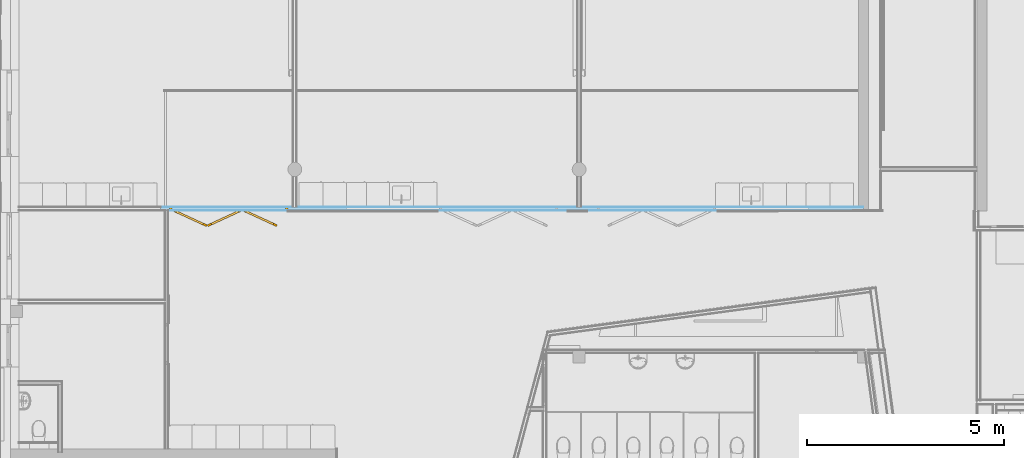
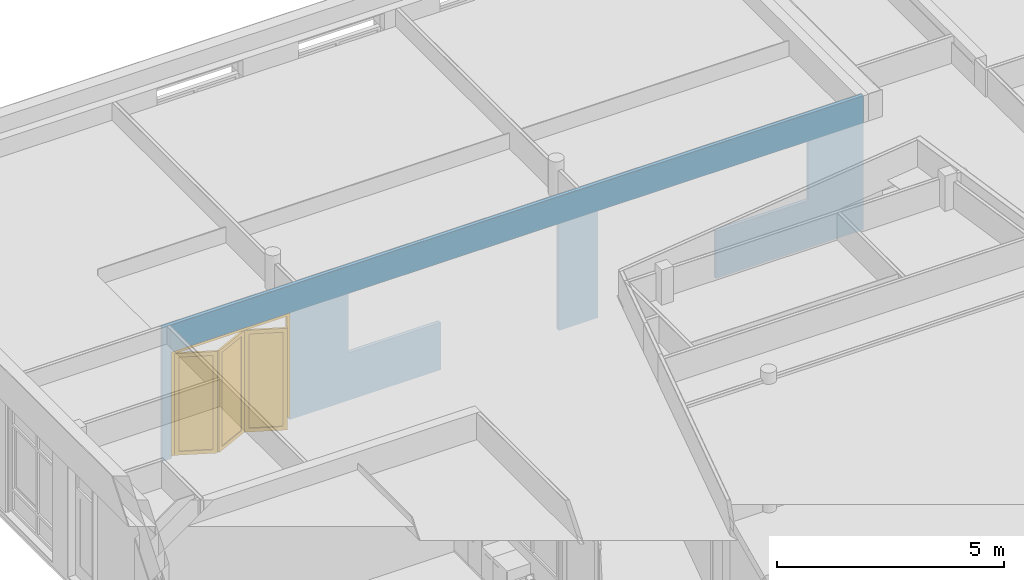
# One storey, part 39 of 167: 1 door, 5 openings, 1 element without a shape of its own, plus 3 elements that do not belong to this part.
"""IFC2X3 building model written with IfcOpenShell, lengths in millimetres."""

from ifc_helpers import new_model, entity, si_unit, converted_unit, derived_unit, money_unit, direction, frame, origin_with_axes, place, context, subcontext, project, spatial, open_shell, faceted_brep, surface_model, material, type_object, element, fill, aggregate, save


model = new_model("IFC2X3")

# Units and contexts
model_context = context("Model", 3, precision=0.01, world=origin_with_axes(), true_north=direction((0.0, 1.0)))
plan_context = context("Plan", 3, precision=0.01, world=origin_with_axes(), true_north=direction((0.0, 1.0)))
body_context = subcontext(model_context, "Body", "Model", "MODEL_VIEW")
ifc_project = project(units=[si_unit("LENGTHUNIT", "METRE", prefix="MILLI"), si_unit("AREAUNIT", "SQUARE_METRE"), si_unit("VOLUMEUNIT", "CUBIC_METRE"), converted_unit("PLANEANGLEUNIT", "DEGREE", entity("IfcPlaneAngleMeasure", 0.0174532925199), si_unit("PLANEANGLEUNIT", "RADIAN"), dimensions=[0, 0, 0, 0, 0, 0, 0]), si_unit("SOLIDANGLEUNIT", "STERADIAN"), money_unit("EUR"), converted_unit("TIMEUNIT", "Year", entity("IfcTimeMeasure", 31556926.0), si_unit("TIMEUNIT", "SECOND"), dimensions=[0, 0, 1, 0, 0, 0, 0]), si_unit("MASSUNIT", "GRAM", prefix="KILO"), si_unit("THERMODYNAMICTEMPERATUREUNIT", "DEGREE_CELSIUS"), si_unit("LUMINOUSINTENSITYUNIT", "LUMEN"), si_unit("ENERGYUNIT", "JOULE", prefix="MEGA"), derived_unit("THERMALCONDUCTANCEUNIT", [(si_unit("POWERUNIT", "WATT"), 1), (si_unit("LENGTHUNIT", "METRE"), -1), (si_unit("THERMODYNAMICTEMPERATUREUNIT", "KELVIN"), -1)]), derived_unit("SPECIFICHEATCAPACITYUNIT", [(si_unit("ENERGYUNIT", "JOULE"), 1), (si_unit("MASSUNIT", "GRAM", prefix="KILO"), -1), (si_unit("THERMODYNAMICTEMPERATUREUNIT", "KELVIN"), -1)]), derived_unit("MASSDENSITYUNIT", [(si_unit("MASSUNIT", "GRAM", prefix="KILO"), 1), (si_unit("VOLUMEUNIT", "CUBIC_METRE"), -1)])], contexts=[model_context, plan_context])

# Site, building, storey
site_placement = place(None, origin_with_axes())
site = spatial("IfcSite", under=ifc_project, at=site_placement, Name="Site", CompositionType="ELEMENT")
building_placement = place(site_placement, origin_with_axes())
building = spatial("IfcBuilding", under=site, at=building_placement, Name="Naam gebouw", CompositionType="ELEMENT")
storey_placement = place(building_placement, origin_with_axes())
storey = spatial("IfcBuildingStorey", under=building, at=storey_placement, Name="Begane grond", CompositionType="ELEMENT", Elevation=0.0)

# Door
door_style = type_object("IfcDoorStyle", Name="DV1 24", ConstructionType="NOTDEFINED", OperationType="FOLDING_TO_LEFT", ParameterTakesPrecedence=False, Sizeable=False)
wall_placement = place(storey_placement, frame((3950.0, 42200.0, -100.0), z_axis=(0.0, 0.0, 1.0), x_axis=(1.0, 0.0, 0.0)))
opening_5_placement = place(wall_placement, frame((1575.0, 0.0, 100.0), z_axis=(0.0, 0.0, 1.0), x_axis=(1.0, 0.0, 0.0)))
door_placement = place(opening_5_placement, frame((1500.0, 0.0, 0.0), z_axis=(0.0, 0.0, 1.0), x_axis=(-1.0, 0.0, 0.0)))
door = element("IfcDoor", 1, at=door_placement, inside=storey, type_object=door_style, Name="32_Deur_Si-01", ObjectType="DOOR", OverallHeight=2800.0, OverallWidth=3000.0, context=body_context, shape_type="SurfaceModel", body=[
    faceted_brep([(3000.0, 50.0, 0.0), (3000.0, -30.0, 0.0), (2933.0, -30.0, 0.0), (2933.0, 50.0, 0.0), (3000.0, 50.0, 2733.0), (3000.0, -30.0, 2733.0), (2933.0, -30.0, 2733.0), (2933.0, 50.0, 2733.0)], [[[0, 1, 2, 3]], [[4, 5, 1, 0]], [[1, 5, 6, 2]], [[3, 2, 6, 7]], [[0, 3, 7, 4]], [[7, 6, 5, 4]]]),
    faceted_brep([(0.0, 50.0, 0.0), (0.0, -30.0, 0.0), (0.0, -30.0, 2733.0), (0.0, 50.0, 2733.0), (67.0, 50.0, 0.0), (67.0, -30.0, 0.0), (67.0, -30.0, 2733.0), (67.0, 50.0, 2733.0)], [[[0, 1, 2, 3]], [[4, 5, 1, 0]], [[1, 5, 6, 2]], [[3, 2, 6, 7]], [[0, 3, 7, 4]], [[7, 6, 5, 4]]]),
    faceted_brep([(3000.0, 50.0, 2800.0), (3000.0, -30.0, 2800.0), (3000.0, -30.0, 2733.0), (3000.0, 50.0, 2733.0), (0.0, 50.0, 2800.0), (0.0, -30.0, 2800.0), (0.0, -30.0, 2733.0), (67.0, -30.0, 2733.0), (2933.0, -30.0, 2733.0), (2933.0, 50.0, 2733.0), (67.0, 50.0, 2733.0), (0.0, 50.0, 2733.0)], [[[0, 1, 2, 3]], [[4, 5, 1, 0]], [[1, 5, 6, 7, 8, 2]], [[3, 2, 8, 9]], [[0, 3, 9, 10, 11, 4]], [[11, 6, 5, 4]], [[10, 7, 6, 11]], [[9, 8, 7, 10]]]),
    faceted_brep([(2933.0, 50.0, 100.0), (2912.08677852, 4.58373455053, 100.0), (2821.25424762, 46.4101775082, 100.0), (2842.1674691, 91.8264429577, 100.0), (2933.0, 50.0, 2633.0), (2912.08677852, 4.58373455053, 2633.0), (2821.25424762, 46.4101775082, 2633.0), (2842.1674691, 91.8264429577, 2633.0)], [[[0, 1, 2, 3]], [[4, 5, 1, 0]], [[1, 5, 6, 2]], [[3, 2, 6, 7]], [[0, 3, 7, 4]], [[7, 6, 5, 4]]]),
    faceted_brep([(2065.24655481, 449.581951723, 100.0), (2044.33333333, 404.165686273, 100.0), (2044.33333333, 404.165686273, 2633.0), (2065.24655481, 449.581951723, 2633.0), (2156.07908571, 407.755508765, 100.0), (2135.16586423, 362.339243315, 100.0), (2135.16586423, 362.339243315, 2633.0), (2156.07908571, 407.755508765, 2633.0)], [[[0, 1, 2, 3]], [[4, 5, 1, 0]], [[1, 5, 6, 2]], [[3, 2, 6, 7]], [[0, 3, 7, 4]], [[7, 6, 5, 4]]]),
    faceted_brep([(2933.0, 50.0, 0.0), (2912.08677852, 4.58373455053, 0.0), (2044.33333333, 404.165686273, 0.0), (2065.24655481, 449.581951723, 0.0), (2933.0, 50.0, 100.0), (2912.08677852, 4.58373455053, 100.0), (2821.25424762, 46.4101775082, 100.0), (2135.16586423, 362.339243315, 100.0), (2044.33333333, 404.165686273, 100.0), (2065.24655481, 449.581951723, 100.0), (2156.07908571, 407.755508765, 100.0), (2842.1674691, 91.8264429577, 100.0)], [[[0, 1, 2, 3]], [[4, 5, 1, 0]], [[1, 5, 6, 7, 8, 2]], [[3, 2, 8, 9]], [[0, 3, 9, 10, 11, 4]], [[11, 6, 5, 4]], [[10, 7, 6, 11]], [[9, 8, 7, 10]]]),
    faceted_brep([(2933.0, 50.0, 2733.0), (2912.08677852, 4.58373455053, 2733.0), (2912.08677852, 4.58373455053, 2633.0), (2933.0, 50.0, 2633.0), (2065.24655481, 449.581951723, 2733.0), (2044.33333333, 404.165686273, 2733.0), (2044.33333333, 404.165686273, 2633.0), (2135.16586423, 362.339243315, 2633.0), (2821.25424762, 46.4101775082, 2633.0), (2842.1674691, 91.8264429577, 2633.0), (2156.07908571, 407.755508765, 2633.0), (2065.24655481, 449.581951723, 2633.0)], [[[0, 1, 2, 3]], [[4, 5, 1, 0]], [[1, 5, 6, 7, 8, 2]], [[3, 2, 8, 9]], [[0, 3, 9, 10, 11, 4]], [[11, 6, 5, 4]], [[10, 7, 6, 11]], [[9, 8, 7, 10]]]),
    surface_model("IfcShellBasedSurfaceModel", [(2148.13206155, 390.497327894, 100.0), (2148.13206155, 390.497327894, 2633.0), (2834.22044494, 74.5682620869, 2633.0), (2834.22044494, 74.5682620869, 100.0)], [open_shell([[[0, 1, 2, 3]]])]),
    surface_model("IfcShellBasedSurfaceModel", [(2143.11288839, 379.597424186, 100.0), (2829.20127178, 63.668358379, 100.0), (2829.20127178, 63.668358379, 2633.0), (2143.11288839, 379.597424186, 2633.0)], [open_shell([[[0, 1, 2, 3]]])]),
    faceted_brep([(2023.42011185, 449.581951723, 100.0), (2044.33333333, 404.165686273, 100.0), (1953.50080243, 362.339243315, 100.0), (1932.58758096, 407.755508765, 100.0), (2023.42011185, 449.581951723, 2633.0), (2044.33333333, 404.165686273, 2633.0), (1953.50080243, 362.339243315, 2633.0), (1932.58758096, 407.755508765, 2633.0)], [[[0, 1, 2, 3]], [[4, 5, 1, 0]], [[1, 5, 6, 2]], [[3, 2, 6, 7]], [[0, 3, 7, 4]], [[7, 6, 5, 4]]]),
    faceted_brep([(1155.66666667, 50.0, 100.0), (1176.57988815, 4.58373455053, 100.0), (1176.57988815, 4.58373455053, 2633.0), (1155.66666667, 50.0, 2633.0), (1246.49919757, 91.8264429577, 100.0), (1267.41241904, 46.4101775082, 100.0), (1267.41241904, 46.4101775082, 2633.0), (1246.49919757, 91.8264429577, 2633.0)], [[[0, 1, 2, 3]], [[4, 5, 1, 0]], [[1, 5, 6, 2]], [[3, 2, 6, 7]], [[0, 3, 7, 4]], [[7, 6, 5, 4]]]),
    faceted_brep([(2023.42011185, 449.581951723, 0.0), (2044.33333333, 404.165686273, 0.0), (1176.57988815, 4.58373455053, 0.0), (1155.66666667, 50.0, 0.0), (2023.42011185, 449.581951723, 100.0), (2044.33333333, 404.165686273, 100.0), (1953.50080243, 362.339243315, 100.0), (1267.41241904, 46.4101775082, 100.0), (1176.57988815, 4.58373455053, 100.0), (1155.66666667, 50.0, 100.0), (1246.49919757, 91.8264429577, 100.0), (1932.58758096, 407.755508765, 100.0)], [[[0, 1, 2, 3]], [[4, 5, 1, 0]], [[1, 5, 6, 7, 8, 2]], [[3, 2, 8, 9]], [[0, 3, 9, 10, 11, 4]], [[11, 6, 5, 4]], [[10, 7, 6, 11]], [[9, 8, 7, 10]]]),
    faceted_brep([(2023.42011185, 449.581951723, 2733.0), (2044.33333333, 404.165686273, 2733.0), (2044.33333333, 404.165686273, 2633.0), (2023.42011185, 449.581951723, 2633.0), (1155.66666667, 50.0, 2733.0), (1176.57988815, 4.58373455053, 2733.0), (1176.57988815, 4.58373455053, 2633.0), (1267.41241904, 46.4101775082, 2633.0), (1953.50080243, 362.339243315, 2633.0), (1932.58758096, 407.755508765, 2633.0), (1246.49919757, 91.8264429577, 2633.0), (1155.66666667, 50.0, 2633.0)], [[[0, 1, 2, 3]], [[4, 5, 1, 0]], [[1, 5, 6, 7, 8, 2]], [[3, 2, 8, 9]], [[0, 3, 9, 10, 11, 4]], [[11, 6, 5, 4]], [[10, 7, 6, 11]], [[9, 8, 7, 10]]]),
    surface_model("IfcShellBasedSurfaceModel", [(1254.44622173, 74.5682620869, 100.0), (1254.44622173, 74.5682620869, 2633.0), (1940.53460512, 390.497327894, 2633.0), (1940.53460512, 390.497327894, 100.0)], [open_shell([[[0, 1, 2, 3]]])]),
    surface_model("IfcShellBasedSurfaceModel", [(1259.46539488, 63.668358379, 100.0), (1945.55377827, 379.597424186, 100.0), (1945.55377827, 379.597424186, 2633.0), (1259.46539488, 63.668358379, 2633.0)], [open_shell([[[0, 1, 2, 3]]])]),
    faceted_brep([(1155.66666667, 50.0, 100.0), (1134.75344519, 4.58373455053, 100.0), (1043.92091429, 46.4101775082, 100.0), (1064.83413577, 91.8264429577, 100.0), (1155.66666667, 50.0, 2633.0), (1134.75344519, 4.58373455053, 2633.0), (1043.92091429, 46.4101775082, 2633.0), (1064.83413577, 91.8264429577, 2633.0)], [[[0, 1, 2, 3]], [[4, 5, 1, 0]], [[1, 5, 6, 2]], [[3, 2, 6, 7]], [[0, 3, 7, 4]], [[7, 6, 5, 4]]]),
    faceted_brep([(287.913221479, 449.581951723, 100.0), (267.0, 404.165686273, 100.0), (267.0, 404.165686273, 2633.0), (287.913221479, 449.581951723, 2633.0), (378.745752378, 407.755508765, 100.0), (357.832530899, 362.339243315, 100.0), (357.832530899, 362.339243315, 2633.0), (378.745752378, 407.755508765, 2633.0)], [[[0, 1, 2, 3]], [[4, 5, 1, 0]], [[1, 5, 6, 2]], [[3, 2, 6, 7]], [[0, 3, 7, 4]], [[7, 6, 5, 4]]]),
    faceted_brep([(1155.66666667, 50.0, 0.0), (1134.75344519, 4.58373455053, 0.0), (267.0, 404.165686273, 0.0), (287.913221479, 449.581951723, 0.0), (1155.66666667, 50.0, 100.0), (1134.75344519, 4.58373455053, 100.0), (1043.92091429, 46.4101775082, 100.0), (357.832530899, 362.339243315, 100.0), (267.0, 404.165686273, 100.0), (287.913221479, 449.581951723, 100.0), (378.745752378, 407.755508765, 100.0), (1064.83413577, 91.8264429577, 100.0)], [[[0, 1, 2, 3]], [[4, 5, 1, 0]], [[1, 5, 6, 7, 8, 2]], [[3, 2, 8, 9]], [[0, 3, 9, 10, 11, 4]], [[11, 6, 5, 4]], [[10, 7, 6, 11]], [[9, 8, 7, 10]]]),
    faceted_brep([(1155.66666667, 50.0, 2733.0), (1134.75344519, 4.58373455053, 2733.0), (1134.75344519, 4.58373455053, 2633.0), (1155.66666667, 50.0, 2633.0), (287.913221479, 449.581951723, 2733.0), (267.0, 404.165686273, 2733.0), (267.0, 404.165686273, 2633.0), (357.832530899, 362.339243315, 2633.0), (1043.92091429, 46.4101775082, 2633.0), (1064.83413577, 91.8264429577, 2633.0), (378.745752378, 407.755508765, 2633.0), (287.913221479, 449.581951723, 2633.0)], [[[0, 1, 2, 3]], [[4, 5, 1, 0]], [[1, 5, 6, 7, 8, 2]], [[3, 2, 8, 9]], [[0, 3, 9, 10, 11, 4]], [[11, 6, 5, 4]], [[10, 7, 6, 11]], [[9, 8, 7, 10]]]),
    surface_model("IfcShellBasedSurfaceModel", [(370.798728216, 390.497327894, 100.0), (370.798728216, 390.497327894, 2633.0), (1056.88711161, 74.5682620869, 2633.0), (1056.88711161, 74.5682620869, 100.0)], [open_shell([[[0, 1, 2, 3]]])]),
    surface_model("IfcShellBasedSurfaceModel", [(365.779555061, 379.597424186, 100.0), (1051.86793845, 63.668358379, 100.0), (1051.86793845, 63.668358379, 2633.0), (365.779555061, 379.597424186, 2633.0)], [open_shell([[[0, 1, 2, 3]]])]),
])

# Wall, openings
wall_type = type_object("IfcWallType", Name="_TenW_22_Metalstud 100 enkel gipsvezelplaat 100", PredefinedType="NOTDEFINED")
wall = element("IfcWall", 2, at=wall_placement, inside=storey, type_object=wall_type, Name="22_Wand_Wand-x")
opening_1_placement = place(wall_placement, frame((5740.0, 0.0, 1300.0), z_axis=(0.0, 0.0, 1.0), x_axis=(1.0, 0.0, 0.0)))
element("IfcOpeningElement", 3, at=opening_1_placement, cuts=wall, Name="31_Raam_Hi-53", context=body_context, shape_type="Brep", body=[
    faceted_brep([(-1175.0, 100.0, 1600.0), (-1175.0, 100.0, 0.0), (-1175.0, -200.0, 0.0), (-1175.0, -200.0, 1600.0), (1175.0, 100.0, 1600.0), (1175.0, 100.0, 0.0), (1175.0, -200.0, 0.0), (1175.0, -200.0, 1600.0)], [[[0, 1, 2, 3]], [[0, 4, 5, 1]], [[1, 5, 6, 2]], [[3, 2, 6, 7]], [[4, 0, 3, 7]], [[5, 4, 7, 6]]]),
])
opening_2_placement = place(wall_placement, frame((15080.2814686, 0.0, 1300.0), z_axis=(0.0, 0.0, 1.0), x_axis=(1.0, 0.0, 0.0)))
element("IfcOpeningElement", 4, at=opening_2_placement, cuts=wall, Name="31_Raam_Hi-53", context=body_context, shape_type="Brep", body=[
    faceted_brep([(1175.0, -200.0, 1600.0), (1175.0, -200.0, 0.0), (1175.0, 100.0, 0.0), (1175.0, 100.0, 1600.0), (-1175.0, -200.0, 1600.0), (-1175.0, -200.0, 0.0), (-1175.0, 100.0, 0.0), (-1175.0, 100.0, 1600.0)], [[[0, 1, 2, 3]], [[0, 4, 5, 1]], [[1, 5, 6, 2]], [[3, 2, 6, 7]], [[4, 0, 3, 7]], [[5, 4, 7, 6]]]),
])
opening_3_placement = place(wall_placement, frame((8415.0, 0.0, 100.0), z_axis=(0.0, 0.0, 1.0), x_axis=(1.0, 0.0, 0.0)))
element("IfcOpeningElement", 5, at=opening_3_placement, cuts=wall, Name="32_Deur_Si-02", context=body_context, shape_type="Brep", body=[
    faceted_brep([(1500.0, -200.0, 2800.0), (1500.0, -200.0, 0.0), (1500.0, 100.0, 0.0), (1500.0, 100.0, 2800.0), (-1500.0, -200.0, 2800.0), (-1500.0, -200.0, 0.0), (-1500.0, 100.0, 0.0), (-1500.0, 100.0, 2800.0)], [[[0, 1, 2, 3]], [[0, 4, 5, 1]], [[1, 5, 6, 2]], [[3, 2, 6, 7]], [[4, 0, 3, 7]], [[5, 4, 7, 6]]]),
])
opening_4_placement = place(wall_placement, frame((12405.2814686, 0.0, 100.0), z_axis=(0.0, 0.0, 1.0), x_axis=(1.0, 0.0, 0.0)))
element("IfcOpeningElement", 6, at=opening_4_placement, cuts=wall, Name="32_Deur_Si-02s", context=body_context, shape_type="Brep", body=[
    faceted_brep([(-1500.0, 100.0, 2800.0), (-1500.0, 100.0, 0.0), (-1500.0, -200.0, 0.0), (-1500.0, -200.0, 2800.0), (1500.0, 100.0, 2800.0), (1500.0, 100.0, 0.0), (1500.0, -200.0, 0.0), (1500.0, -200.0, 2800.0)], [[[0, 1, 2, 3]], [[0, 4, 5, 1]], [[1, 5, 6, 2]], [[3, 2, 6, 7]], [[4, 0, 3, 7]], [[5, 4, 7, 6]]]),
])
opening_5 = element("IfcOpeningElement", 7, at=opening_5_placement, cuts=wall, Name="32_Deur_Si-01", context=body_context, shape_type="Brep", body=[
    faceted_brep([(1500.0, -200.0, 2800.0), (1500.0, -200.0, 0.0), (1500.0, 100.0, 0.0), (1500.0, 100.0, 2800.0), (-1500.0, -200.0, 2800.0), (-1500.0, -200.0, 0.0), (-1500.0, 100.0, 0.0), (-1500.0, 100.0, 2800.0)], [[[0, 1, 2, 3]], [[0, 4, 5, 1]], [[1, 5, 6, 2]], [[3, 2, 6, 7]], [[4, 0, 3, 7]], [[5, 4, 7, 6]]]),
])

fill(opening_5, door)

# Building element part
ifc_material_1 = material(Name="Gipsplaat watervast")
building_element_part_1_placement = place(wall_placement, origin_with_axes())
building_element_part_1 = element("IfcBuildingElementPart", 8, at=building_element_part_1_placement, material=ifc_material_1, Name="Gipsplaat watervast", context=body_context, shape_type="Brep", body=[
    faceted_brep([(75.0, 50.0, 2900.0), (75.0, 50.0, 100.0), (75.0, 50.0, 30.0), (-150.0, 50.0, 30.0), (-150.0, 50.0, 3630.0), (3212.5, 50.0, 3630.0), (3212.5, 50.0, 30.0), (3075.0, 50.0, 30.0), (3075.0, 50.0, 100.0), (3075.0, 50.0, 2900.0), (75.0, 37.5, 2900.0), (75.0, 37.5, 100.0), (75.0, 37.5, 30.0), (-150.0, 37.5, 30.0), (-150.0, 37.5, 3630.0), (3212.5, 37.5, 3630.0), (3212.5, 37.5, 30.0), (3075.0, 37.5, 30.0), (3075.0, 37.5, 100.0), (3075.0, 37.5, 2900.0)], [[[0, 1, 2, 3, 4, 5, 6, 7, 8, 9]], [[1, 0, 10, 11]], [[1, 11, 12, 2]], [[12, 13, 3, 2]], [[13, 14, 4, 3]], [[4, 14, 15, 5]], [[6, 5, 15, 16]], [[7, 6, 16, 17]], [[18, 8, 7, 17]], [[9, 8, 18, 19]], [[0, 9, 19, 10]], [[19, 18, 17, 16, 15, 14, 13, 12, 11, 10]]]),
    faceted_brep([(10905.2814686, 50.0, 2900.0), (10905.2814686, 50.0, 100.0), (10905.2814686, 50.0, 30.0), (10487.5, 50.0, 30.0), (10487.5, 50.0, 3630.0), (17650.0, 50.0, 3630.0), (17650.0, 50.0, 30.0), (13905.2814686, 50.0, 30.0), (13905.2814686, 50.0, 100.0), (13905.2814686, 50.0, 1300.0), (16255.2814686, 50.0, 1300.0), (16255.2814686, 50.0, 2900.0), (13905.2814686, 50.0, 2900.0), (10905.2814686, 37.5, 2900.0), (10905.2814686, 37.5, 100.0), (10905.2814686, 37.5, 30.0), (10487.5, 37.5, 30.0), (10487.5, 37.5, 3630.0), (17650.0, 37.5, 3630.0), (17650.0, 37.5, 30.0), (13905.2814686, 37.5, 30.0), (13905.2814686, 37.5, 100.0), (13905.2814686, 37.5, 1300.0), (16255.2814686, 37.5, 1300.0), (16255.2814686, 37.5, 2900.0), (13905.2814686, 37.5, 2900.0)], [[[0, 1, 2, 3, 4, 5, 6, 7, 8, 9, 10, 11, 12]], [[1, 0, 13, 14]], [[1, 14, 15, 2]], [[16, 3, 2, 15]], [[17, 4, 3, 16]], [[18, 5, 4, 17]], [[5, 18, 19, 6]], [[6, 19, 20, 7]], [[21, 8, 7, 20]], [[22, 9, 8, 21]], [[9, 22, 23, 10]], [[10, 23, 24, 11]], [[25, 13, 0, 12, 11, 24]], [[13, 25, 24, 23, 22, 21, 20, 19, 18, 17, 16, 15, 14]]]),
    faceted_brep([(6915.0, 37.5, 1300.0), (6915.0, 50.0, 1300.0), (4565.0, 50.0, 1300.0), (4565.0, 37.5, 1300.0), (6915.0, 50.0, 100.0), (6915.0, 37.5, 100.0), (9915.0, 50.0, 2900.0), (6915.0, 50.0, 2900.0), (4565.0, 50.0, 2900.0), (6915.0, 50.0, 30.0), (3287.5, 50.0, 30.0), (3287.5, 50.0, 3630.0), (10412.5, 50.0, 3630.0), (10412.5, 50.0, 30.0), (9915.0, 50.0, 30.0), (9915.0, 50.0, 100.0), (4565.0, 37.5, 2900.0), (9915.0, 37.5, 2900.0), (9915.0, 37.5, 100.0), (9915.0, 37.5, 30.0), (10412.5, 37.5, 30.0), (10412.5, 37.5, 3630.0), (3287.5, 37.5, 3630.0), (3287.5, 37.5, 30.0), (6915.0, 37.5, 30.0), (6915.0, 37.5, 2900.0)], [[[0, 1, 2, 3]], [[4, 1, 0, 5]], [[6, 7, 8, 2, 1, 4, 9, 10, 11, 12, 13, 14, 15]], [[8, 16, 3, 2]], [[17, 18, 19, 20, 21, 22, 23, 24, 5, 0, 3, 16, 25]], [[4, 5, 24, 9]], [[7, 6, 17, 25, 16, 8]], [[23, 10, 9, 24]], [[22, 11, 10, 23]], [[21, 12, 11, 22]], [[12, 21, 20, 13]], [[13, 20, 19, 14]], [[18, 15, 14, 19]], [[6, 15, 18, 17]]]),
])

ifc_material_2 = material(Name="Isolatie - Steenwol zacht")
building_element_part_2_placement = place(wall_placement, origin_with_axes())
building_element_part_2 = element("IfcBuildingElementPart", 9, at=building_element_part_2_placement, material=ifc_material_2, Name="Isolatie - Steenwol zacht", context=body_context, shape_type="Brep", body=[
    faceted_brep([(75.0, 37.5, 2900.0), (75.0, 37.5, 100.0), (75.0, 37.5, 30.0), (-150.0, 37.5, 30.0), (-150.0, 37.5, 3630.0), (17650.0, 37.5, 3630.0), (17650.0, 37.5, 30.0), (13905.2814686, 37.5, 30.0), (13905.2814686, 37.5, 100.0), (13905.2814686, 37.5, 1300.0), (16255.2814686, 37.5, 1300.0), (16255.2814686, 37.5, 2900.0), (10905.2814686, 37.5, 2900.0), (10905.2814686, 37.5, 100.0), (10905.2814686, 37.5, 30.0), (9915.0, 37.5, 30.0), (9915.0, 37.5, 100.0), (9915.0, 37.5, 2900.0), (4565.0, 37.5, 2900.0), (4565.0, 37.5, 1300.0), (6915.0, 37.5, 1300.0), (6915.0, 37.5, 100.0), (6915.0, 37.5, 30.0), (3075.0, 37.5, 30.0), (3075.0, 37.5, 100.0), (3075.0, 37.5, 2900.0), (75.0, -37.5, 2900.0), (75.0, -37.5, 100.0), (75.0, -37.5, 30.0), (-150.0, -37.5, 30.0), (-150.0, -37.5, 3630.0), (17650.0, -37.5, 3630.0), (17650.0, -37.5, 30.0), (13905.2814686, -37.5, 30.0), (13905.2814686, -37.5, 100.0), (13905.2814686, -37.5, 1300.0), (16255.2814686, -37.5, 1300.0), (16255.2814686, -37.5, 2900.0), (10905.2814686, -37.5, 2900.0), (10905.2814686, -37.5, 100.0), (10905.2814686, -37.5, 30.0), (9915.0, -37.5, 30.0), (9915.0, -37.5, 100.0), (9915.0, -37.5, 2900.0), (4565.0, -37.5, 2900.0), (4565.0, -37.5, 1300.0), (6915.0, -37.5, 1300.0), (6915.0, -37.5, 100.0), (6915.0, -37.5, 30.0), (3075.0, -37.5, 30.0), (3075.0, -37.5, 100.0), (3075.0, -37.5, 2900.0)], [[[0, 1, 2, 3, 4, 5, 6, 7, 8, 9, 10, 11, 12, 13, 14, 15, 16, 17, 18, 19, 20, 21, 22, 23, 24, 25]], [[1, 0, 26, 27]], [[1, 27, 28, 2]], [[28, 29, 3, 2]], [[29, 30, 4, 3]], [[4, 30, 31, 5]], [[6, 5, 31, 32]], [[7, 6, 32, 33]], [[8, 7, 33, 34]], [[9, 8, 34, 35]], [[35, 36, 10, 9]], [[37, 11, 10, 36]], [[12, 11, 37, 38]], [[12, 38, 39, 13]], [[39, 40, 14, 13]], [[40, 41, 15, 14]], [[15, 41, 42, 16]], [[42, 43, 17, 16]], [[44, 18, 17, 43]], [[19, 18, 44, 45]], [[19, 45, 46, 20]], [[46, 47, 21, 20]], [[48, 22, 21, 47]], [[48, 49, 23, 22]], [[50, 24, 23, 49]], [[25, 24, 50, 51]], [[0, 25, 51, 26]], [[51, 50, 49, 48, 47, 46, 45, 44, 43, 42, 41, 40, 39, 38, 37, 36, 35, 34, 33, 32, 31, 30, 29, 28, 27, 26]]]),
])

building_element_part_3_placement = place(wall_placement, origin_with_axes())
building_element_part_3 = element("IfcBuildingElementPart", 10, at=building_element_part_3_placement, material=ifc_material_1, Name="Gipsplaat watervast", context=body_context, shape_type="Brep", body=[
    faceted_brep([(75.0, -37.5, 2900.0), (75.0, -37.5, 100.0), (75.0, -37.5, 30.0), (50.0, -37.5, 30.0), (50.0, -37.5, 3630.0), (17650.0, -37.5, 3630.0), (17650.0, -37.5, 30.0), (13905.2814686, -37.5, 30.0), (13905.2814686, -37.5, 100.0), (13905.2814686, -37.5, 1300.0), (16255.2814686, -37.5, 1300.0), (16255.2814686, -37.5, 2900.0), (10905.2814686, -37.5, 2900.0), (10905.2814686, -37.5, 100.0), (10905.2814686, -37.5, 30.0), (9915.0, -37.5, 30.0), (9915.0, -37.5, 100.0), (9915.0, -37.5, 2900.0), (4565.0, -37.5, 2900.0), (4565.0, -37.5, 1300.0), (6915.0, -37.5, 1300.0), (6915.0, -37.5, 100.0), (6915.0, -37.5, 30.0), (3075.0, -37.5, 30.0), (3075.0, -37.5, 100.0), (3075.0, -37.5, 2900.0), (75.0, -50.0, 2900.0), (75.0, -50.0, 100.0), (75.0, -50.0, 30.0), (50.0, -50.0, 30.0), (50.0, -50.0, 3630.0), (17650.0, -50.0, 3630.0), (17650.0, -50.0, 30.0), (13905.2814686, -50.0, 30.0), (13905.2814686, -50.0, 100.0), (13905.2814686, -50.0, 1300.0), (16255.2814686, -50.0, 1300.0), (16255.2814686, -50.0, 2900.0), (10905.2814686, -50.0, 2900.0), (10905.2814686, -50.0, 100.0), (10905.2814686, -50.0, 30.0), (9915.0, -50.0, 30.0), (9915.0, -50.0, 100.0), (9915.0, -50.0, 2900.0), (4565.0, -50.0, 2900.0), (4565.0, -50.0, 1300.0), (6915.0, -50.0, 1300.0), (6915.0, -50.0, 100.0), (6915.0, -50.0, 30.0), (3075.0, -50.0, 30.0), (3075.0, -50.0, 100.0), (3075.0, -50.0, 2900.0)], [[[0, 1, 2, 3, 4, 5, 6, 7, 8, 9, 10, 11, 12, 13, 14, 15, 16, 17, 18, 19, 20, 21, 22, 23, 24, 25]], [[1, 0, 26, 27]], [[1, 27, 28, 2]], [[28, 29, 3, 2]], [[29, 30, 4, 3]], [[4, 30, 31, 5]], [[6, 5, 31, 32]], [[7, 6, 32, 33]], [[8, 7, 33, 34]], [[9, 8, 34, 35]], [[35, 36, 10, 9]], [[37, 11, 10, 36]], [[12, 11, 37, 38]], [[12, 38, 39, 13]], [[39, 40, 14, 13]], [[40, 41, 15, 14]], [[15, 41, 42, 16]], [[42, 43, 17, 16]], [[44, 18, 17, 43]], [[19, 18, 44, 45]], [[19, 45, 46, 20]], [[46, 47, 21, 20]], [[48, 22, 21, 47]], [[48, 49, 23, 22]], [[50, 24, 23, 49]], [[25, 24, 50, 51]], [[0, 25, 51, 26]], [[51, 50, 49, 48, 47, 46, 45, 44, 43, 42, 41, 40, 39, 38, 37, 36, 35, 34, 33, 32, 31, 30, 29, 28, 27, 26]]]),
])

aggregate(wall, [building_element_part_1, building_element_part_2, building_element_part_3])

save(model, "model.ifc")
